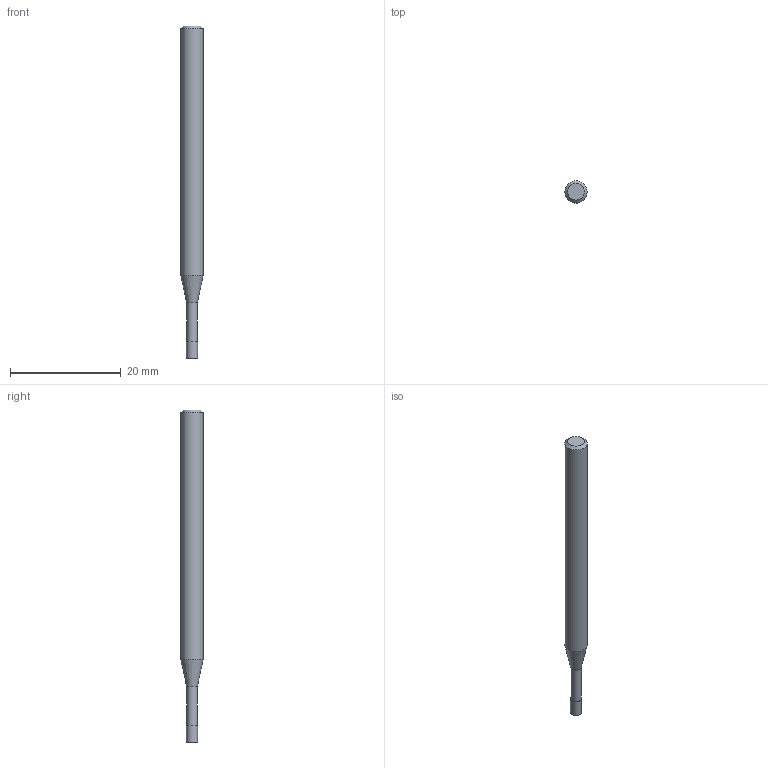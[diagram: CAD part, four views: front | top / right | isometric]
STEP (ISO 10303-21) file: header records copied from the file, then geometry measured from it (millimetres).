
FILE_DESCRIPTION((''),'2;1');
FILE_NAME('C:\Users\nsx150\AppData\Local\Temp\Mastercam 2021\EUJSUNXURU\TEMP.step','2021-04-22T10:27:44',(''),(''),'STEP Write','Mastercam 2021 ... CNC Software, Inc.','');
FILE_SCHEMA(('AUTOMOTIVE_DESIGN'));
Length unit declared in the file: millimetre
Products named in the file (1): None
Bounding box: 4 x 4 x 60 mm (x, y, z)
Volume: 631 mm3; surface area: 693 mm2
Topology: 2 solids, 2 shells, 9 faces, 12 edges, 7 vertices
Faces by surface type: plane 4, cylinder 3, cone 2
Full cylindrical faces by diameter (mm): 1.94 x1, 2 x1, 4 x1
Entity records: 211 total; most frequent: DIRECTION 36, CARTESIAN_POINT 25, AXIS2_PLACEMENT_3D 18, ORIENTED_EDGE 14, EDGE_LOOP 14, STYLED_ITEM 12, ADVANCED_FACE 9, FACE_BOUND 8
